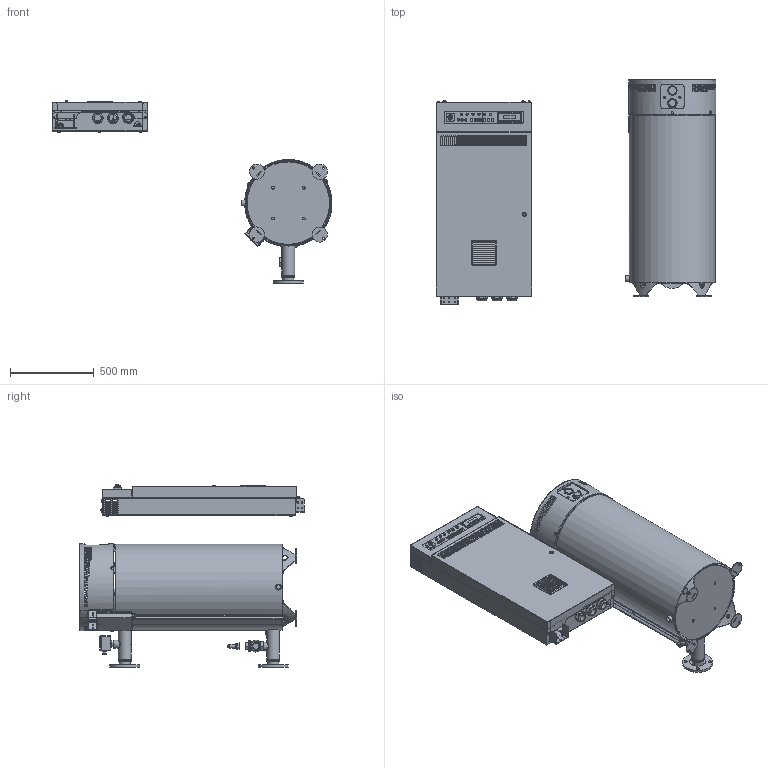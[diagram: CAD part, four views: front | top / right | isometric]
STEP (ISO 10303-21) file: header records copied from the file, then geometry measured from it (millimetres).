
FILE_DESCRIPTION(/* description */ (''),/* implementation_level */ '2;1');
FILE_NAME(/* name */ '\\fs01.nvsk.local\FileServer\!!!Обмен файлами\Маркелова Л.В\Задача 144\225-275\Электрокотёл 225-275 кВт_Shrinkwrap_1.stp',/* time_stamp */ '2022-07-11T10:05:12+03:00',/* author */ ('nvsk-constr2'),/* organization */ (''),/* preprocessor_version */ 'ST-DEVELOPER v18.1',/* originating_system */ 'Autodesk Inventor 2021',/* authorisation */ '');
FILE_SCHEMA (('CONFIG_CONTROL_DESIGN'));
Products named in the file (1): Электрокотёл 
225-275 кВт_Shrinkwrap_1
Bounding box: 1667.94 x 1339.5 x 1092.67 mm (x, y, z)
Volume: 514207.7 mm3; surface area: 13023968.1 mm2
Topology: 5 solids, 74 shells, 2716 faces, 9027 edges, 6247 vertices
Faces by surface type: plane 1375, cylinder 894, cone 234, torus 131, bspline 49, sphere 33
Full cylindrical faces by diameter (mm): 3.5 x6, 4 x7, 4.317 x2, 4.5 x4, 5.9 x2, 6 x8, 6.5 x7, 7 x24, 7.119 x1, 7.323 x3, 7.834 x2, 8 x8, 8.5 x9, 8.8 x2, 9 x2, 9.5 x6, 9.936 x1, 10 x13, 10.106 x2, 11.4 x6, 11.433 x2, 11.5 x9, 11.63 x2, 12 x2, 13 x10, 13.562 x1, 14 x10, 14.367 x1, 14.63 x1, 14.778 x2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
Entity records: 115414 total; most frequent: CARTESIAN_POINT 32331, DIRECTION 16941, ORIENTED_EDGE 15725, EDGE_CURVE 9026, VERTEX_POINT 6246, AXIS2_PLACEMENT_3D 6170, LINE 4601, VECTOR 4601
